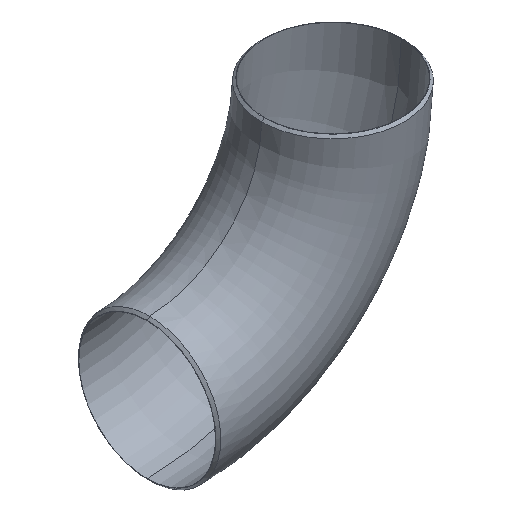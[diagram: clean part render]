
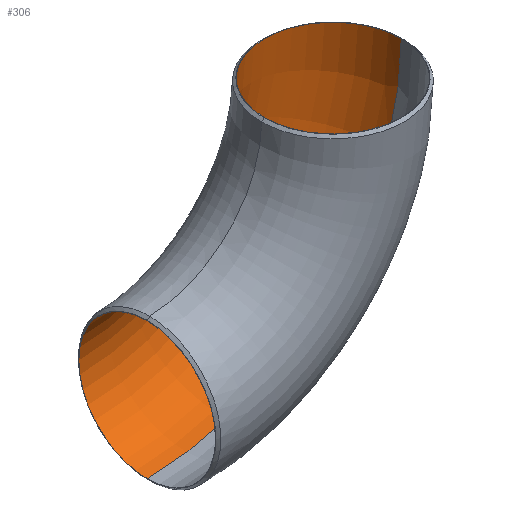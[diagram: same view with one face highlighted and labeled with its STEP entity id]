
A CAD part, isometric view. The second image highlights one B-rep face of the part: STEP entity #306.
In plain terms, the highlighted toroidal (fillet/blend) face has major radius 228.6 mm and minor radius 84.15 mm.
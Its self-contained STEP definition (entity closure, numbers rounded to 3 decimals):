
#4 = DIRECTION ( 'NONE',  ( 0., 0., -1. ) ) ;
#45 = DIRECTION ( 'NONE',  ( 1., 0., 0. ) ) ;
#281 = CARTESIAN_POINT ( 'NONE',  ( 0., 0., -312.75 ) ) ;
#306 = ADVANCED_FACE ( 'NONE', ( #2171 ), #3657, .F. ) ;
#384 = ORIENTED_EDGE ( 'NONE', *, *, #3425, .T. ) ;
#400 = CIRCLE ( 'NONE', #2525, 84.15 ) ;
#422 = EDGE_CURVE ( 'NONE', #640, #1778, #1746, .T. ) ;
#560 = DIRECTION ( 'NONE',  ( 1., 0., 0. ) ) ;
#627 = DIRECTION ( 'NONE',  ( 0., 0., 1. ) ) ;
#640 = VERTEX_POINT ( 'NONE', #281 ) ;
#706 = CARTESIAN_POINT ( 'NONE',  ( 0., 0., 0. ) ) ;
#897 = DIRECTION ( 'NONE',  ( 0., -1., 0. ) ) ;
#1406 = EDGE_LOOP ( 'NONE', ( #3021, #384, #1986, #3727 ) ) ;
#1508 = DIRECTION ( 'NONE',  ( 0., 0., -1. ) ) ;
#1531 = CARTESIAN_POINT ( 'NONE',  ( 0., 0., -228.6 ) ) ;
#1612 = AXIS2_PLACEMENT_3D ( 'NONE', #706, #3354, #4 ) ;
#1677 = EDGE_CURVE ( 'NONE', #1778, #3706, #2169, .T. ) ;
#1746 = CIRCLE ( 'NONE', #1964, 84.15 ) ;
#1778 = VERTEX_POINT ( 'NONE', #3990 ) ;
#1837 = CARTESIAN_POINT ( 'NONE',  ( 312.75, 0., 0. ) ) ;
#1964 = AXIS2_PLACEMENT_3D ( 'NONE', #1531, #560, #1508 ) ;
#1986 = ORIENTED_EDGE ( 'NONE', *, *, #2786, .T. ) ;
#2169 = CIRCLE ( 'NONE', #4013, 144.45 ) ;
#2171 = FACE_OUTER_BOUND ( 'NONE', #1406, .T. ) ;
#2322 = AXIS2_PLACEMENT_3D ( 'NONE', #2946, #897, #3583 ) ;
#2345 = VERTEX_POINT ( 'NONE', #1837 ) ;
#2525 = AXIS2_PLACEMENT_3D ( 'NONE', #2664, #627, #45 ) ;
#2664 = CARTESIAN_POINT ( 'NONE',  ( 228.6, 0., 0. ) ) ;
#2670 = CARTESIAN_POINT ( 'NONE',  ( 0., 0., 0. ) ) ;
#2786 = EDGE_CURVE ( 'NONE', #2345, #3706, #400, .T. ) ;
#2946 = CARTESIAN_POINT ( 'NONE',  ( 0., 0., 0. ) ) ;
#2992 = DIRECTION ( 'NONE',  ( 0., 0., -1. ) ) ;
#3021 = ORIENTED_EDGE ( 'NONE', *, *, #422, .F. ) ;
#3082 = CIRCLE ( 'NONE', #1612, 312.75 ) ;
#3354 = DIRECTION ( 'NONE',  ( 0., -1., 0. ) ) ;
#3425 = EDGE_CURVE ( 'NONE', #640, #2345, #3082, .T. ) ;
#3583 = DIRECTION ( 'NONE',  ( 0., 0., -1. ) ) ;
#3657 = TOROIDAL_SURFACE ( 'NONE', #2322, 228.6, 84.15 ) ;
#3677 = DIRECTION ( 'NONE',  ( 0., -1., 0. ) ) ;
#3706 = VERTEX_POINT ( 'NONE', #4066 ) ;
#3727 = ORIENTED_EDGE ( 'NONE', *, *, #1677, .F. ) ;
#3990 = CARTESIAN_POINT ( 'NONE',  ( 0., 0., -144.45 ) ) ;
#4013 = AXIS2_PLACEMENT_3D ( 'NONE', #2670, #3677, #2992 ) ;
#4066 = CARTESIAN_POINT ( 'NONE',  ( 144.45, 0., 0. ) ) ;
